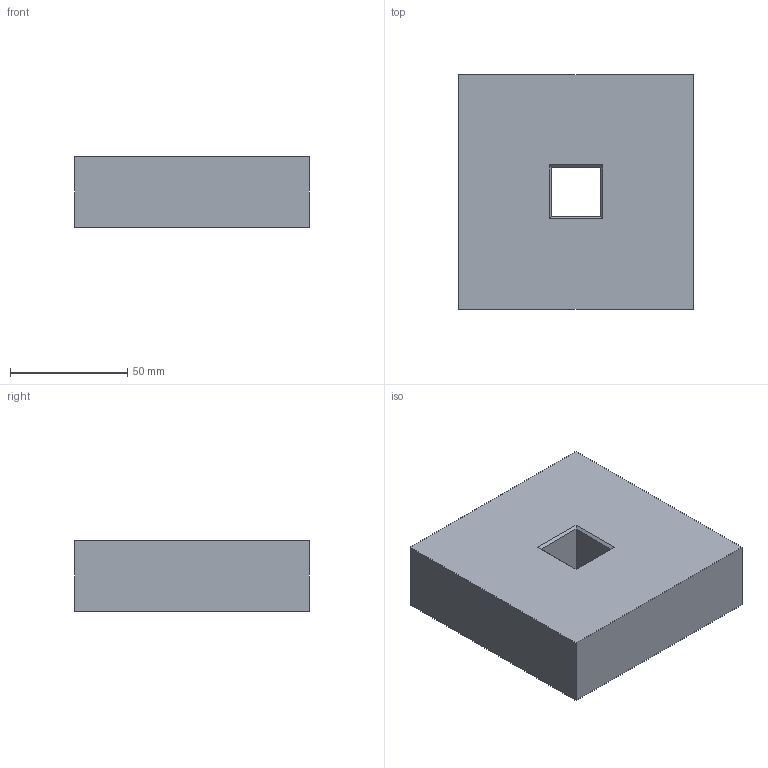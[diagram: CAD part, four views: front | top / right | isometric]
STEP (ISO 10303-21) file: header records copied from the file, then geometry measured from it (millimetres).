
FILE_DESCRIPTION(('Open CASCADE Model'),'2;1');
FILE_NAME('Open CASCADE Shape Model','2026-10-21T17:23:49',('Author'),( 'Open CASCADE'),'Open CASCADE STEP processor 7.9','Open CASCADE 7.9' ,'Unknown');
FILE_SCHEMA(('AUTOMOTIVE_DESIGN { 1 0 10303 214 1 1 1 1 }'));
Length unit declared in the file: millimetre
Products named in the file (1): Open CASCADE STEP translator 7.9 17
Bounding box: 100 x 100 x 30 mm (x, y, z)
Volume: 285680.7 mm3; surface area: 34000.6 mm2
Topology: 1 solids, 1 shells, 22 faces, 44 edges, 28 vertices
Faces by surface type: plane 14, bspline 4, cylinder 4
Full cylindrical faces by diameter (mm): 10.2 x4
Entity records: 1154 total; most frequent: CARTESIAN_POINT 227, DIRECTION 166, LINE 108, VECTOR 108, ORIENTED_EDGE 88, PCURVE 88, DEFINITIONAL_REPRESENTATION 88, EDGE_CURVE 44
